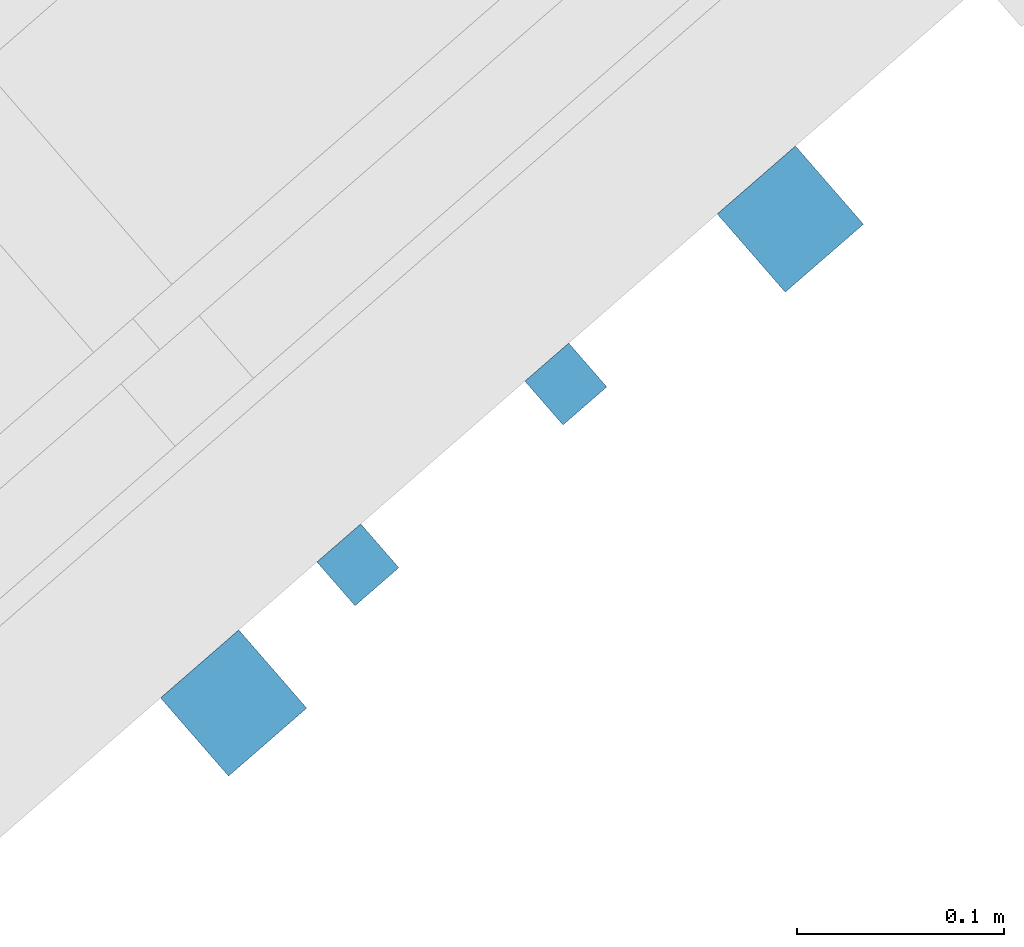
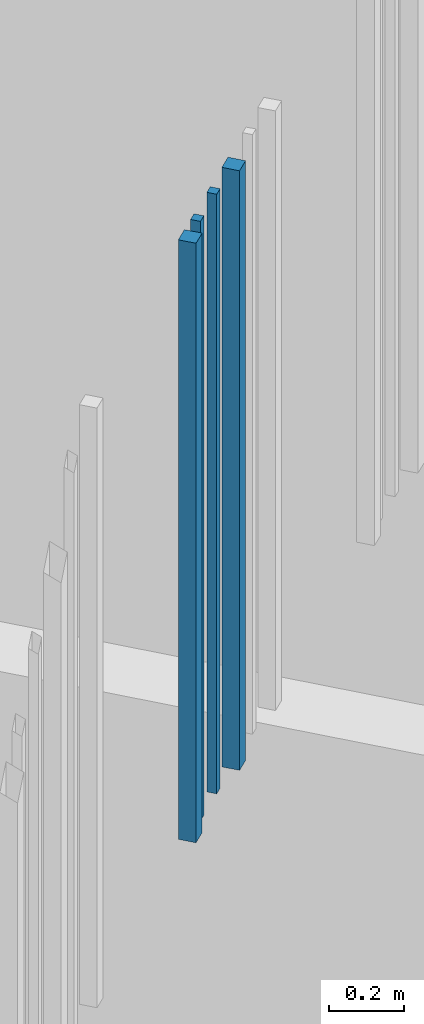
# One storey, part 62 of 124: 4 walls.
"""IFC2X3 building model written with IfcOpenShell, lengths in millimetres."""

from ifc_helpers import new_model, entity, si_unit, converted_unit, derived_unit, money_unit, direction, frame, origin_with_axes, place, context, subcontext, project, spatial, faceted_brep, material, type_object, element, save


model = new_model("IFC2X3")

# Units and contexts
model_context = context("Model", 3, precision=1e-05, world=origin_with_axes(), true_north=direction((0.0, 1.0)))
body_context = subcontext(model_context, "Body", "Model", "MODEL_VIEW")
ifc_project = project(units=[si_unit("LENGTHUNIT", "METRE", prefix="MILLI"), si_unit("AREAUNIT", "SQUARE_METRE"), si_unit("VOLUMEUNIT", "CUBIC_METRE"), converted_unit("PLANEANGLEUNIT", "DEGREE", entity("IfcPlaneAngleMeasure", 0.0174532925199), si_unit("PLANEANGLEUNIT", "RADIAN"), dimensions=[0, 0, 0, 0, 0, 0, 0]), si_unit("SOLIDANGLEUNIT", "STERADIAN"), money_unit("EUR"), converted_unit("TIMEUNIT", "Year", entity("IfcTimeMeasure", 31556926.0), si_unit("TIMEUNIT", "SECOND"), dimensions=[0, 0, 1, 0, 0, 0, 0]), si_unit("MASSUNIT", "GRAM", prefix="KILO"), si_unit("THERMODYNAMICTEMPERATUREUNIT", "DEGREE_CELSIUS"), si_unit("LUMINOUSINTENSITYUNIT", "LUMEN"), si_unit("ENERGYUNIT", "JOULE", prefix="MEGA"), derived_unit("THERMALCONDUCTANCEUNIT", [(si_unit("POWERUNIT", "WATT"), 1), (si_unit("LENGTHUNIT", "METRE"), -1), (si_unit("THERMODYNAMICTEMPERATUREUNIT", "KELVIN"), -1)]), derived_unit("SPECIFICHEATCAPACITYUNIT", [(si_unit("ENERGYUNIT", "JOULE"), 1), (si_unit("MASSUNIT", "GRAM", prefix="KILO"), -1), (si_unit("THERMODYNAMICTEMPERATUREUNIT", "KELVIN"), -1)]), derived_unit("MASSDENSITYUNIT", [(si_unit("MASSUNIT", "GRAM", prefix="KILO"), 1), (si_unit("VOLUMEUNIT", "CUBIC_METRE"), -1)])], contexts=[model_context])

# Site, building, storey
site_placement = place(None, origin_with_axes())
site = spatial("IfcSite", under=ifc_project, at=site_placement, Name="Site", CompositionType="ELEMENT")
building_placement = place(site_placement, origin_with_axes())
building = spatial("IfcBuilding", under=site, at=building_placement, Name="Building", CompositionType="ELEMENT")
storey_placement = place(building_placement, frame((0.0, 0.0, -1615.0), z_axis=(0.0, 0.0, 1.0), x_axis=(1.0, 0.0, 0.0)))
storey = spatial("IfcBuildingStorey", under=building, at=storey_placement, Name="0  korrus", CompositionType="ELEMENT", Elevation=-1615.0)

# Walls
ifc_material = material(Name="Site specified")
wall_type = type_object("IfcWallType", Name="Puitfassaadi ribistik", PredefinedType="NOTDEFINED")
for number, where, z_axis, x_axis, name in (
    (1, (156212.987166, 80439.0698155, 9530.0), (0.0, 0.0, 1.0), (-0.754709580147, -0.656059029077, 0.0), "Site specified"),
    (2, (156112.610793, 80351.8139652, 9530.0), (0.0, 0.0, 1.0), (-0.754709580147, -0.656059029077, 0.0), "Site specified"),
):
    element("IfcWall", number, at=place(storey_placement, frame(where, z_axis=z_axis, x_axis=x_axis)), inside=storey, type_object=wall_type, material=ifc_material, Name=name, context=body_context, shape_type="Brep", body=[
        faceted_brep([(14.0, 14.0, 1950.0), (14.0, 14.0, 0.0), (-14.0, 14.0, 0.0), (-14.0, 14.0, 1950.0), (14.0, -14.0, 1950.0), (14.0, -14.0, 0.0), (-14.0, -14.0, 0.0), (-14.0, -14.0, 1950.0)], [[[0, 1, 2, 3]], [[4, 5, 1, 0]], [[2, 1, 5, 6]], [[3, 2, 6, 7]], [[4, 0, 3, 7]], [[7, 6, 5, 4]]]),
    ])
for number, where, z_axis, x_axis, name in (
    (3, (156052.655897, 80285.1208262, 9530.0), (0.0, 0.0, 1.0), (-0.754709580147, -0.656059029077, 0.0), "Site specified"),
    (4, (156321.336759, 80518.6815364, 9530.0), (0.0, 0.0, 1.0), (-0.754709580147, -0.656059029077, 0.0), "Site specified"),
):
    element("IfcWall", number, at=place(storey_placement, frame(where, z_axis=z_axis, x_axis=x_axis)), inside=storey, type_object=wall_type, material=ifc_material, Name=name, context=body_context, shape_type="Brep", body=[
        faceted_brep([(25.0, 25.0, 1950.0), (25.0, 25.0, 0.0), (-25.0, 25.0, 0.0), (-25.0, 25.0, 1950.0), (25.0, -25.0, 1950.0), (25.0, -25.0, 0.0), (-25.0, -25.0, 0.0), (-25.0, -25.0, 1950.0)], [[[0, 1, 2, 3]], [[4, 5, 1, 0]], [[2, 1, 5, 6]], [[3, 2, 6, 7]], [[4, 0, 3, 7]], [[7, 6, 5, 4]]]),
    ])

save(model, "model.ifc")
